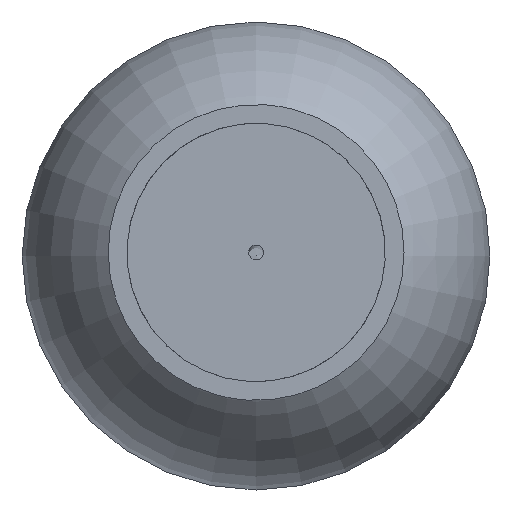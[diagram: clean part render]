
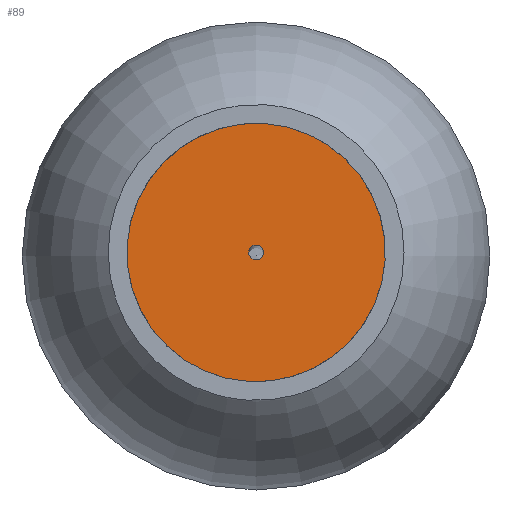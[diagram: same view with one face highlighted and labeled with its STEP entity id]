
A CAD part, top view. The second image highlights one B-rep face of the part: STEP entity #89.
In plain terms, the highlighted free-form (B-spline) face has degree [1, 1] with [2, 2] control points.
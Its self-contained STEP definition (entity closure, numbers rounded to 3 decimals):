
#89=ADVANCED_FACE('0:92',(#110,#111),#112,.F.);
#110=FACE_OUTER_BOUND('',#348,.T.);
#111=FACE_BOUND('',#349,.T.);
#112=B_SPLINE_SURFACE_WITH_KNOTS('',1,1,((#350,#351),(#352,#353)),.UNSPECIFIED.,.F.,.F.,.F.,(2,2),(2,2),(0.0,1.0),(0.0,1.0),.UNSPECIFIED.);
#348=EDGE_LOOP('',(#4815));
#349=EDGE_LOOP('',(#4816));
#350=CARTESIAN_POINT('',(61.188,767.009,1079.096));
#351=CARTESIAN_POINT('',(-78.468,767.009,1079.096));
#352=CARTESIAN_POINT('',(61.188,627.353,1079.096));
#353=CARTESIAN_POINT('',(-78.468,627.353,1079.096));
#4815=ORIENTED_EDGE('',*,*,#4857,.F.);
#4816=ORIENTED_EDGE('',*,*,#4855,.F.);
#4855=EDGE_CURVE('0:104',#4884,#4884,#4885,.T.);
#4857=EDGE_CURVE('0:98',#4888,#4888,#4889,.T.);
#4884=VERTEX_POINT('',#4940);
#4885=CIRCLE('',#4941,4.0);
#4888=VERTEX_POINT('',#4944);
#4889=CIRCLE('',#4945,69.0);
#4940=CARTESIAN_POINT('',(-8.889,693.189,1079.096));
#4941=AXIS2_PLACEMENT_3D('',#5579,#5580,#5581);
#4944=CARTESIAN_POINT('',(-12.93,628.315,1079.096));
#4945=AXIS2_PLACEMENT_3D('',#5585,#5586,#5587);
#5579=CARTESIAN_POINT('',(-8.64,697.181,1079.096));
#5580=DIRECTION('',(0.,0.,1.0));
#5581=DIRECTION('',(-0.062,-0.998,0.));
#5585=CARTESIAN_POINT('',(-8.64,697.181,1079.096));
#5586=DIRECTION('',(0.,0.,-1.0));
#5587=DIRECTION('',(-0.062,-0.998,0.));
